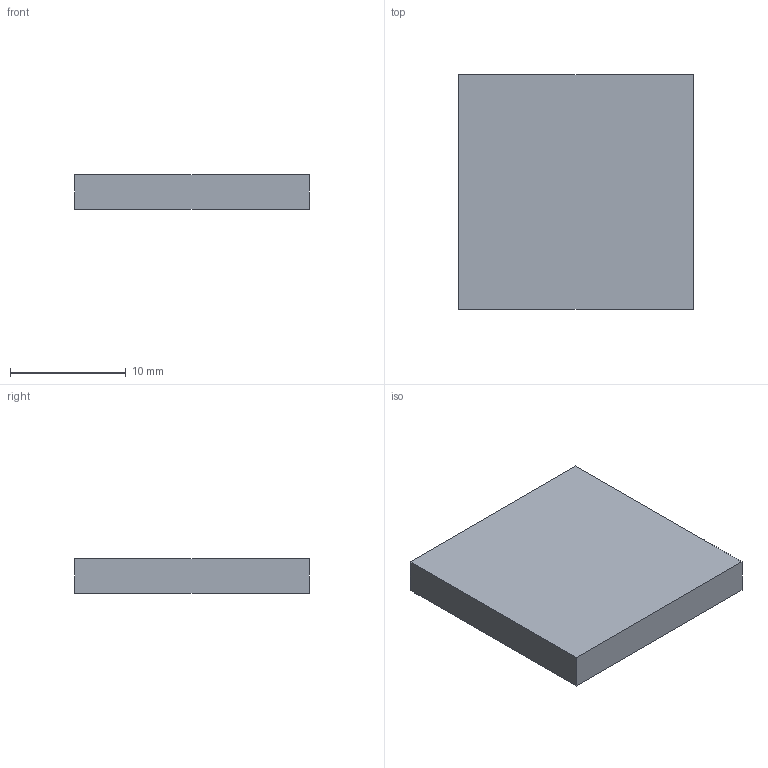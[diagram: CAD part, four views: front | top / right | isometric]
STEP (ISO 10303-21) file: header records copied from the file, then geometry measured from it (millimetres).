
FILE_DESCRIPTION(('Open CASCADE Model'),'2;1');
FILE_NAME('Open CASCADE Shape Model','2026-10-25T05:18:02',('Author'),( 'Open CASCADE'),'Open CASCADE STEP processor 7.9','Open CASCADE 7.9' ,'Unknown');
FILE_SCHEMA(('AUTOMOTIVE_DESIGN { 1 0 10303 214 1 1 1 1 }'));
Length unit declared in the file: millimetre
Products named in the file (1): Open CASCADE STEP translator 7.9 117
Bounding box: 20.3 x 20.3 x 3 mm (x, y, z)
Volume: 1236.3 mm3; surface area: 1067.8 mm2
Topology: 1 solids, 1 shells, 6 faces, 12 edges, 8 vertices
Faces by surface type: plane 6
Entity records: 322 total; most frequent: CARTESIAN_POINT 51, DIRECTION 50, LINE 36, VECTOR 36, ORIENTED_EDGE 24, PCURVE 24, DEFINITIONAL_REPRESENTATION 24, EDGE_CURVE 12
